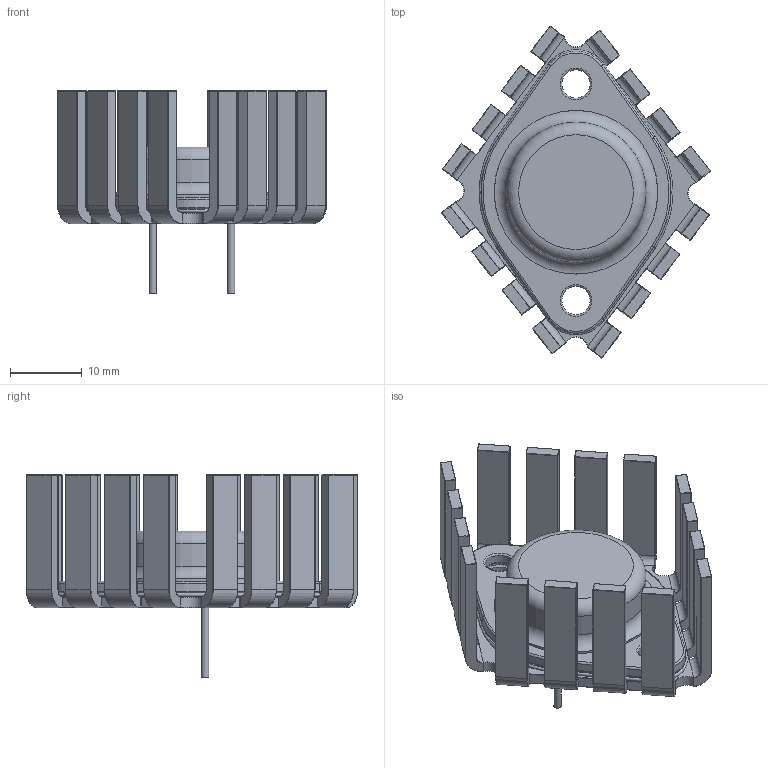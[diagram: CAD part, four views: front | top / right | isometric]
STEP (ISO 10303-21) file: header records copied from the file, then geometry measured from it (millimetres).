
FILE_DESCRIPTION(/* description */ (''),/* implementation_level */ '2;1');
FILE_NAME(/* name */ 'D:\Google Drive\3D\Inventor\KiCad\Yageo Resistors\Commodore 1541 Voltage Regulator with Heatsink.stp',/* time_stamp */ '2019-10-04T08:35:14+02:00',/* author */ ('PCB-Tech'),/* organization */ (''),/* preprocessor_version */ 'ST-DEVELOPER v17.2',/* originating_system */ 'Autodesk Inventor 2019',/* authorisation */ '');
FILE_SCHEMA (('AUTOMOTIVE_DESIGN { 1 0 10303 214 3 1 1 }'));
Products named in the file (1): Commodore 1541 Voltage Regulator with Heatsink
Bounding box: 37.45 x 46.21 x 28.15 mm (x, y, z)
Volume: 6814.1 mm3; surface area: 8677.5 mm2
Topology: 3 solids, 3 shells, 892 faces, 2156 edges, 1278 vertices
Faces by surface type: bspline 351, cylinder 254, plane 110, torus 105, sphere 64, cone 8
Full cylindrical faces by diameter (mm): 1.03 x2, 2.5 x2, 3.94 x2, 4.5 x2, 19.495 x1, 22.5 x1, 22.795 x1
Entity records: 52069 total; most frequent: CARTESIAN_POINT 32198, ORIENTED_EDGE 4312, DIRECTION 3414, EDGE_CURVE 2156, AXIS2_PLACEMENT_3D 1462, VERTEX_POINT 1278, EDGE_LOOP 920, CIRCLE 906
